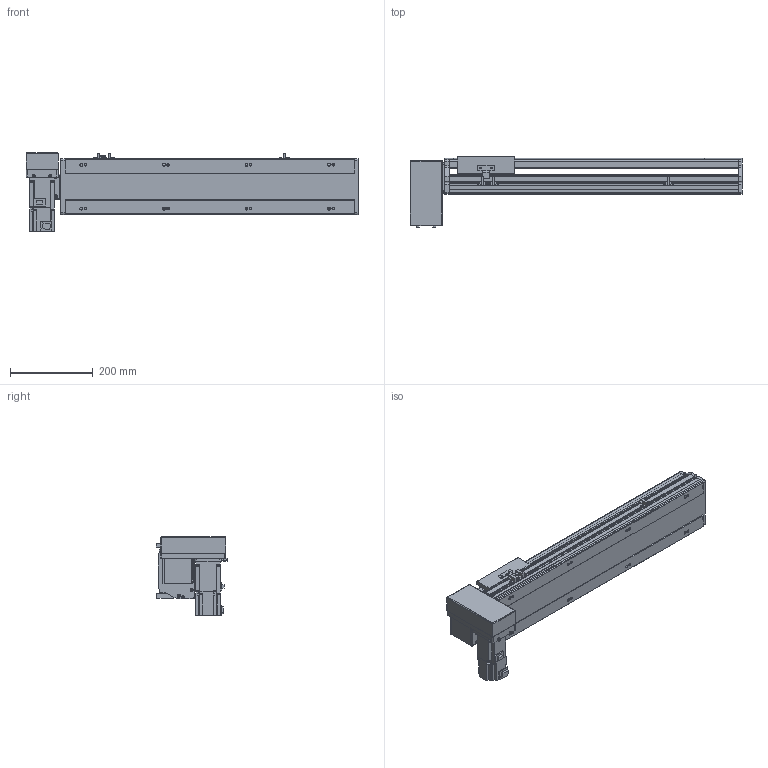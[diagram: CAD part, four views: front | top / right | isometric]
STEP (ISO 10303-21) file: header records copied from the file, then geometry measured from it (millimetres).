
FILE_DESCRIPTION(/* description */ ('STEP AP214'),/* implementation_level */ '2;1');
FILE_NAME(/* name */ 'PBS140S-P40-S450-RD-T40-C1-N(0)',/* time_stamp */ '2022-06-09T02:42:14+02:00',/* author */ ('License CC BY-ND 4.0'),/* organization */ ('CADENAS'),/* preprocessor_version */ 'ST-DEVELOPER v18.102',/* originating_system */ 'PARTsolutions',/* authorisation */ ' ');
FILE_SCHEMA (('AUTOMOTIVE_DESIGN {1 0 10303 214 3 1 1}'));
Length unit declared in the file: millimetre
Products named in the file (7): PBS140S-P40-S450-RD-T40-C1-N(0); PBS140S_sensor; PBS140S_plant; PBS140S_sliser; T40-p1; PBS140ST-RD_motors; PBS140S-S450()_body
Assembly tree (8 placements, depth 2):
  PBS140S-P40-S450-RD-T40-C1-N(0)
    PBS140S_sensor  x3
    PBS140S_plant
    PBS140S_sliser
    T40-p1
    PBS140ST-RD_motors
    PBS140S-S450()_body
Bounding box: 804 x 172.5 x 189.7 mm (x, y, z)
Volume: 4536421.9 mm3; surface area: 808640.8 mm2
Topology: 8 solids, 8 shells, 1035 faces, 2751 edges, 1801 vertices
Faces by surface type: plane 678, cylinder 313, cone 34, sphere 8, torus 2
Full cylindrical faces by diameter (mm): 3.242 x4, 4 x2, 4.134 x4, 4.4 x8, 4.5 x2, 4.8 x4, 4.917 x16, 5.5 x7, 6 x2, 7 x10, 7.5 x8, 8 x12, 8.5 x4, 10.5 x8, 14 x1, 30 x2, 50 x2
Entity records: 29664 total; most frequent: CARTESIAN_POINT 5368, DIRECTION 5068, ORIENTED_EDGE 4822, EDGE_CURVE 2411, AXIS2_PLACEMENT_3D 1739, VERTEX_POINT 1657, LINE 1590, VECTOR 1590
